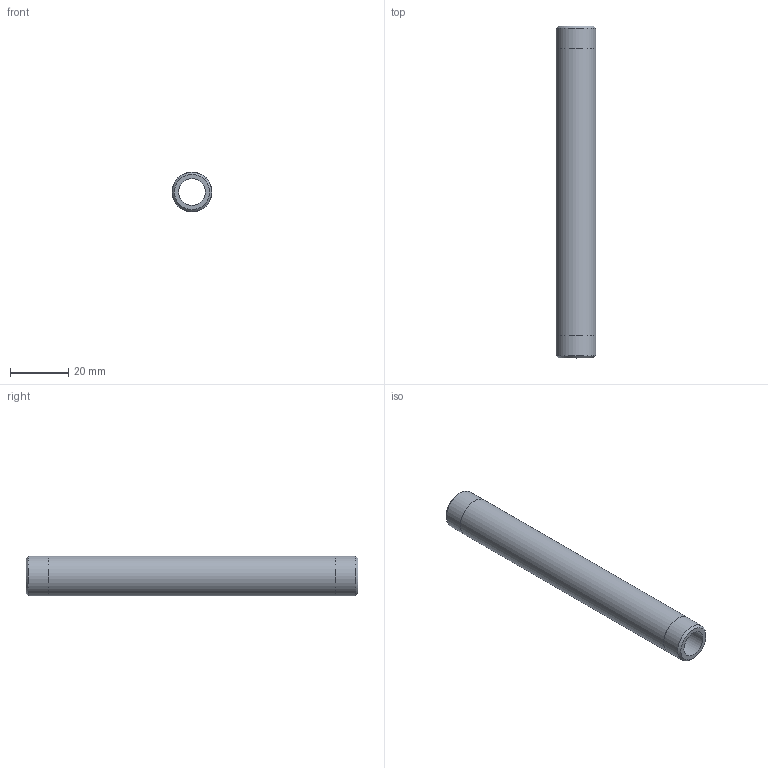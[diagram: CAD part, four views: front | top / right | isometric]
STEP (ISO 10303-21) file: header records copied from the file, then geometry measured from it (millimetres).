
FILE_DESCRIPTION(/* description */ (''),/* implementation_level */ '2;1');
FILE_NAME(/* name */ 'C:/Users/drich/Desktop/BPN14-4-1_2 v1.step',/* time_stamp */ '2020-01-03T14:37:18-06:00',/* author */ (''),/* organization */ (''),/* preprocessor_version */ 'ST-DEVELOPER v18',/* originating_system */ 'Autodesk Translation Framework v8.12.0.6',/* authorisation */ '');
FILE_SCHEMA (('AUTOMOTIVE_DESIGN { 1 0 10303 214 3 1 1 }'));
Length unit declared in the file: inch
Products named in the file (1): BPN14-4-1_2
Bounding box: 13.72 x 114.3 x 13.72 mm (x, y, z)
Volume: 9174.1 mm3; surface area: 8364.1 mm2
Topology: 1 solids, 1 shells, 10 faces, 24 edges, 18 vertices
Faces by surface type: cylinder 4, plane 4, cone 2
Full cylindrical faces by diameter (mm): 9.246 x1, 13.665 x2, 13.716 x1
Entity records: 360 total; most frequent: DIRECTION 64, CARTESIAN_POINT 53, ORIENTED_EDGE 48, AXIS2_PLACEMENT_3D 29, EDGE_CURVE 24, CIRCLE 18, VERTEX_POINT 18, EDGE_LOOP 14
